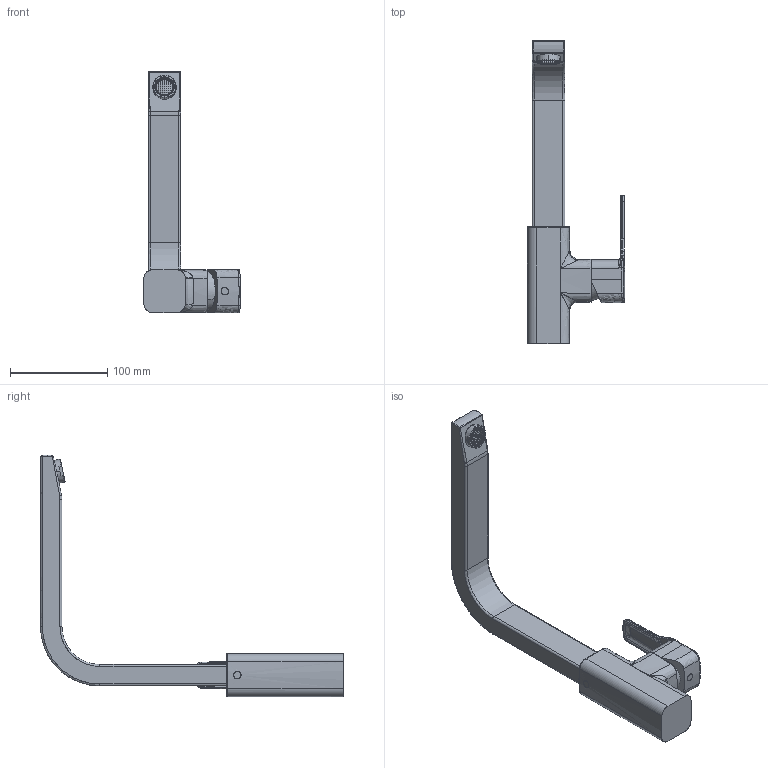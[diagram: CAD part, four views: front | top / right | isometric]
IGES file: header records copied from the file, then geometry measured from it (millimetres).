
Start section: SolidWorks IGES file using NURBS representation for surfaces
Global section: file name: \\IBMGRAU\Projectos\01-TORNEIRAS\ADVANCE\5273001 - mist. cozinha\biblioteca 3D\5273001_igs.IGS; native system: SolidWorks 2018; preprocessor: SolidWorks 2018; author: Julio; date: 180418.141125; units: millimetre
Bounding box: 100.4 x 311 x 248.31 mm (x, y, z)
Surface area: 79300.5 mm2 (no closed solid volume)
Topology: 0 solids, 0 shells, 698 faces, 10808 edges, 10797 vertices
Faces by surface type: bspline 698
